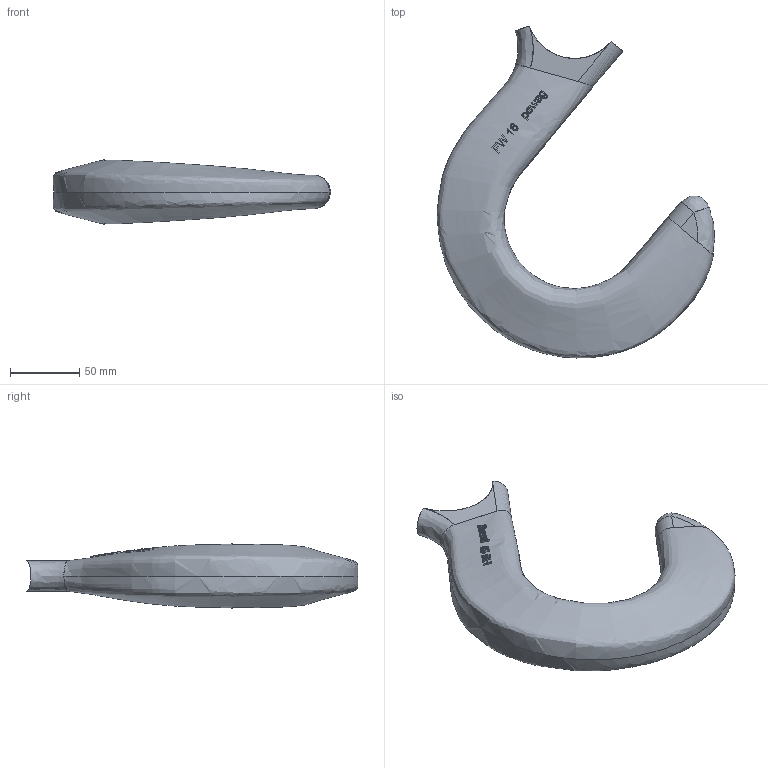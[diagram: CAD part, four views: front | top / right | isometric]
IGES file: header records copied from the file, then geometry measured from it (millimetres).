
Global section: file name: L:\users\SC\3D Kundenmodelle\UG Zg der Ableitung G100\FW Kundenmodell\FW 13 Kundenmodell\pewag_FW_16.igs; native system: NX V4.0; preprocessor: UGS NX IGES V4.0; date: 20100125.121500; units: millimetre
Bounding box: 200.05 x 239.46 x 46.29 mm (x, y, z)
Surface area: 61194.7 mm2 (no closed solid volume)
Topology: 0 solids, 0 shells, 173 faces, 1003 edges, 1000 vertices
Faces by surface type: bspline 164, offset 9
